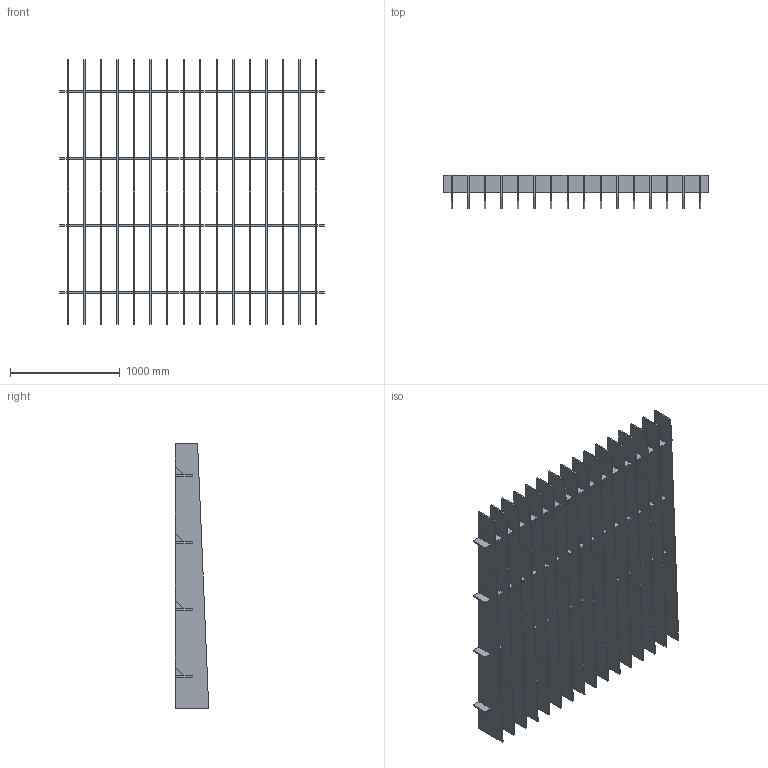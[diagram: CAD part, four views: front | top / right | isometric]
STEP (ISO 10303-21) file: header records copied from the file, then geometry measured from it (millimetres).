
FILE_DESCRIPTION(/* description */ (''),/* implementation_level */ '2;1');
FILE_NAME(/* name */ 'Y:\Design and Engineering\MaterialLogiq\CAD ASSETS\MASTER\BAFFLE\WEB ASSETS\PET BAFFLE_16FIN_8x8_10_SLANT.stp',/* time_stamp */ '2023-11-16T12:11:34-06:00',/* author */ ('Grant Baker'),/* organization */ (''),/* preprocessor_version */ 'ST-DEVELOPER v19',/* originating_system */ 'Autodesk Inventor 2023',/* authorisation */ '');
FILE_SCHEMA (('AUTOMOTIVE_DESIGN { 1 0 10303 214 3 1 1 }'));
Length unit declared in the file: inch
Products named in the file (3): PET BAFFLE_PARAMETRIC_11.02.2023; PET BAFFLE_BEAM; PET BAFFLE_FIN_96in_SLANT
Assembly tree (20 placements, depth 2):
  PET BAFFLE_PARAMETRIC_11.02.2023
    PET BAFFLE_BEAM  x4
    PET BAFFLE_FIN_96in_SLANT  x16
Bounding box: 2413 x 304.8 x 2413 mm (x, y, z)
Volume: 136727893.8 mm3; surface area: 24067670.3 mm2
Topology: 84 solids, 84 shells, 1528 faces, 4080 edges, 2720 vertices
Faces by surface type: plane 1528
Entity records: 6445 total; most frequent: CARTESIAN_POINT 1139, ORIENTED_EDGE 1104, DIRECTION 990, LINE 552, VECTOR 552, EDGE_CURVE 552, VERTEX_POINT 368, AXIS2_PLACEMENT_3D 219
